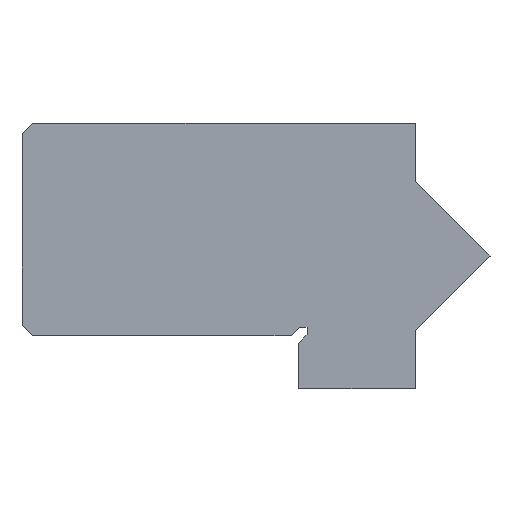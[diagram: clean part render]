
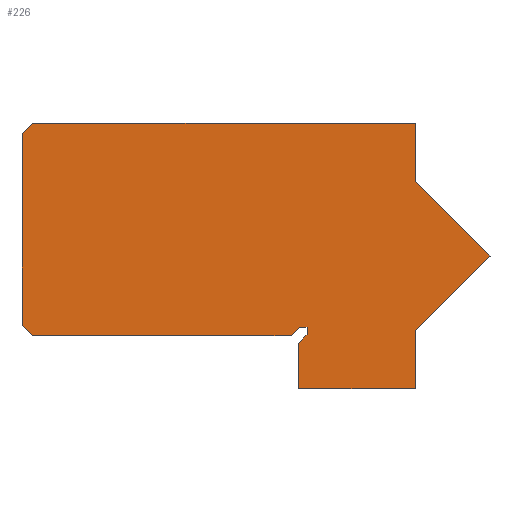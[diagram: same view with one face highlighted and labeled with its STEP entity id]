
A CAD part, left-side view. The second image highlights one B-rep face of the part: STEP entity #226.
In plain terms, the highlighted planar face has unit normal (-1, 0, 0).
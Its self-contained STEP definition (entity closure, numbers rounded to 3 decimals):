
#59=CARTESIAN_POINT('',(0.0,21.5,-3.75));
#60=VERTEX_POINT('',#59);
#67=CARTESIAN_POINT('',(0.0,22.0,-3.25));
#68=VERTEX_POINT('',#67);
#69=CARTESIAN_POINT('',(0.0,21.5,-3.75));
#70=DIRECTION('',(0.0,0.707,0.707));
#71=VECTOR('',#70,0.707);
#72=LINE('',#69,#71);
#73=EDGE_CURVE('',#60,#68,#72,.T.);
#90=CARTESIAN_POINT('',(0.0,22.0,5.75));
#91=VERTEX_POINT('',#90);
#92=CARTESIAN_POINT('',(0.0,22.0,-3.25));
#93=DIRECTION('',(0.0,0.0,1.0));
#94=VECTOR('',#93,9.0);
#95=LINE('',#92,#94);
#96=EDGE_CURVE('',#68,#91,#95,.T.);
#115=CARTESIAN_POINT('',(0.0,15.535,-3.547));
#116=DIRECTION('',(1.0,0.0,0.0));
#117=DIRECTION('',(0.0,0.0,-1.0));
#118=AXIS2_PLACEMENT_3D('',#115,#116,#117);
#119=PLANE('',#118);
#120=ORIENTED_EDGE('',*,*,#73,.F.);
#121=CARTESIAN_POINT('',(0.0,9.354,-3.75));
#122=VERTEX_POINT('',#121);
#123=CARTESIAN_POINT('',(0.0,9.354,-3.75));
#124=DIRECTION('',(0.0,1.0,0.0));
#125=VECTOR('',#124,12.146);
#126=LINE('',#123,#125);
#127=EDGE_CURVE('',#122,#60,#126,.T.);
#128=ORIENTED_EDGE('',*,*,#127,.F.);
#129=CARTESIAN_POINT('',(0.0,8.954,-3.35));
#130=VERTEX_POINT('',#129);
#131=CARTESIAN_POINT('',(0.0,8.954,-3.35));
#132=DIRECTION('',(0.0,0.707,-0.707));
#133=VECTOR('',#132,0.566);
#134=LINE('',#131,#133);
#135=EDGE_CURVE('',#130,#122,#134,.T.);
#136=ORIENTED_EDGE('',*,*,#135,.F.);
#137=CARTESIAN_POINT('',(0.0,8.6,-3.35));
#138=VERTEX_POINT('',#137);
#139=CARTESIAN_POINT('',(0.0,8.6,-3.35));
#140=DIRECTION('',(0.0,1.0,0.0));
#141=VECTOR('',#140,0.354);
#142=LINE('',#139,#141);
#143=EDGE_CURVE('',#138,#130,#142,.T.);
#144=ORIENTED_EDGE('',*,*,#143,.F.);
#145=CARTESIAN_POINT('',(0.0,8.6,-3.704));
#146=VERTEX_POINT('',#145);
#147=CARTESIAN_POINT('',(0.0,8.6,-3.704));
#148=DIRECTION('',(0.0,0.0,1.0));
#149=VECTOR('',#148,0.354);
#150=LINE('',#147,#149);
#151=EDGE_CURVE('',#146,#138,#150,.T.);
#152=ORIENTED_EDGE('',*,*,#151,.F.);
#153=CARTESIAN_POINT('',(0.0,9.,-4.104));
#154=VERTEX_POINT('',#153);
#155=CARTESIAN_POINT('',(0.0,9.,-4.104));
#156=DIRECTION('',(0.0,-0.707,0.707));
#157=VECTOR('',#156,0.566);
#158=LINE('',#155,#157);
#159=EDGE_CURVE('',#154,#146,#158,.T.);
#160=ORIENTED_EDGE('',*,*,#159,.F.);
#161=CARTESIAN_POINT('',(0.0,9.,-6.25));
#162=VERTEX_POINT('',#161);
#163=CARTESIAN_POINT('',(0.0,9.,-6.25));
#164=DIRECTION('',(0.0,0.0,1.0));
#165=VECTOR('',#164,2.146);
#166=LINE('',#163,#165);
#167=EDGE_CURVE('',#162,#154,#166,.T.);
#168=ORIENTED_EDGE('',*,*,#167,.F.);
#169=CARTESIAN_POINT('',(0.0,3.5,-6.25));
#170=VERTEX_POINT('',#169);
#171=CARTESIAN_POINT('',(0.0,3.5,-6.25));
#172=DIRECTION('',(0.0,1.0,0.0));
#173=VECTOR('',#172,5.5);
#174=LINE('',#171,#173);
#175=EDGE_CURVE('',#170,#162,#174,.T.);
#176=ORIENTED_EDGE('',*,*,#175,.F.);
#177=CARTESIAN_POINT('',(0.0,3.5,-3.5));
#178=VERTEX_POINT('',#177);
#179=CARTESIAN_POINT('',(0.0,3.5,-3.5));
#180=DIRECTION('',(0.0,0.0,-1.0));
#181=VECTOR('',#180,2.75);
#182=LINE('',#179,#181);
#183=EDGE_CURVE('',#178,#170,#182,.T.);
#184=ORIENTED_EDGE('',*,*,#183,.F.);
#185=CARTESIAN_POINT('',(0.0,0.0,0.0));
#186=VERTEX_POINT('',#185);
#187=CARTESIAN_POINT('',(0.0,0.0,0.0));
#188=DIRECTION('',(0.0,0.707,-0.707));
#189=VECTOR('',#188,4.95);
#190=LINE('',#187,#189);
#191=EDGE_CURVE('',#186,#178,#190,.T.);
#192=ORIENTED_EDGE('',*,*,#191,.F.);
#193=CARTESIAN_POINT('',(0.0,3.5,3.5));
#194=VERTEX_POINT('',#193);
#195=CARTESIAN_POINT('',(0.0,3.5,3.5));
#196=DIRECTION('',(0.0,-0.707,-0.707));
#197=VECTOR('',#196,4.95);
#198=LINE('',#195,#197);
#199=EDGE_CURVE('',#194,#186,#198,.T.);
#200=ORIENTED_EDGE('',*,*,#199,.F.);
#201=CARTESIAN_POINT('',(0.0,3.5,6.25));
#202=VERTEX_POINT('',#201);
#203=CARTESIAN_POINT('',(0.0,3.5,6.25));
#204=DIRECTION('',(0.0,0.0,-1.0));
#205=VECTOR('',#204,2.75);
#206=LINE('',#203,#205);
#207=EDGE_CURVE('',#202,#194,#206,.T.);
#208=ORIENTED_EDGE('',*,*,#207,.F.);
#209=CARTESIAN_POINT('',(0.0,21.5,6.25));
#210=VERTEX_POINT('',#209);
#211=CARTESIAN_POINT('',(0.0,21.5,6.25));
#212=DIRECTION('',(0.0,-1.0,0.0));
#213=VECTOR('',#212,18.);
#214=LINE('',#211,#213);
#215=EDGE_CURVE('',#210,#202,#214,.T.);
#216=ORIENTED_EDGE('',*,*,#215,.F.);
#217=CARTESIAN_POINT('',(0.0,22.0,5.75));
#218=DIRECTION('',(0.0,-0.707,0.707));
#219=VECTOR('',#218,0.707);
#220=LINE('',#217,#219);
#221=EDGE_CURVE('',#91,#210,#220,.T.);
#222=ORIENTED_EDGE('',*,*,#221,.F.);
#223=ORIENTED_EDGE('',*,*,#96,.F.);
#224=EDGE_LOOP('',(#120,#128,#136,#144,#152,#160,#168,#176,#184,#192,#200,#208,#216,#222,#223));
#225=FACE_OUTER_BOUND('',#224,.T.);
#226=ADVANCED_FACE('',(#225),#119,.F.);
